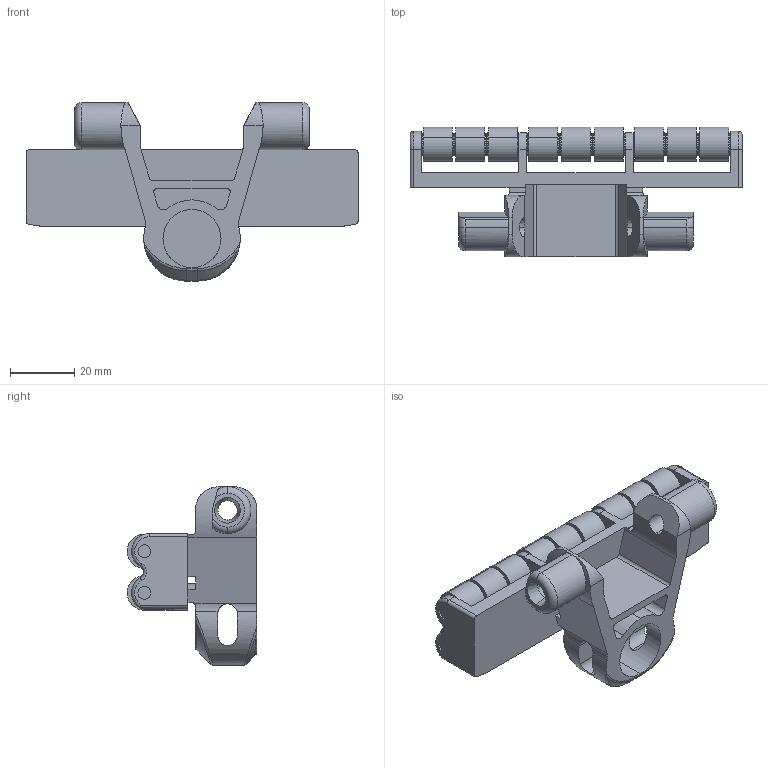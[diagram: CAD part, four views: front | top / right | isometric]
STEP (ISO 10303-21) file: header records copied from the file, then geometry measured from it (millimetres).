
FILE_DESCRIPTION (( 'STEP AP214' ), '1' );
FILE_NAME ('FCRT-5.STEP', '2011-07-04T12:06:18', ( '.' ), ( '' ), 'SwSTEP 2.0', 'SolidWorks 2010', '' );
FILE_SCHEMA (( 'AUTOMOTIVE_DESIGN' ));
Length unit declared in the file: millimetre
Products named in the file (4): FCPC-5_FCRT; Galets F...RT; FCRT-5; Axe pour F..RT_FC
Assembly tree (21 placements, depth 2):
  FCRT-5
    Galets F...RT  x18
    FCPC-5_FCRT
    Axe pour F..RT_FC  x2
Bounding box: 103 x 40.25 x 55.3 mm (x, y, z)
Volume: 46092.5 mm3; surface area: 31418.5 mm2
Topology: 21 solids, 21 shells, 549 faces, 1246 edges, 770 vertices
Faces by surface type: cylinder 233, torus 160, plane 144, cone 8, bspline 4
Entity records: 7876 total; most frequent: CARTESIAN_POINT 2375, DIRECTION 1140, ORIENTED_EDGE 1120, EDGE_CURVE 560, AXIS2_PLACEMENT_3D 435, VERTEX_POINT 358, VECTOR 270, LINE 270
